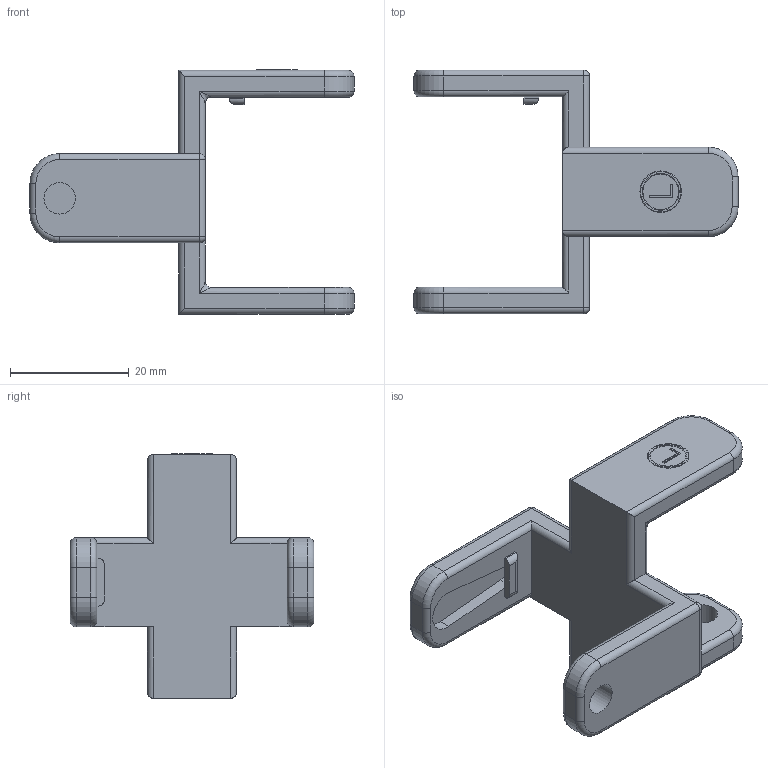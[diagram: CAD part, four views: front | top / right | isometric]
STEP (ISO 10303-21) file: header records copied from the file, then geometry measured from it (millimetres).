
FILE_DESCRIPTION(/* description */ ('STEP AP242 Edition 2','CAx-IF Rec.Pracs.---Representation and Presentation of Product Manufacturing Information (PMI)---4.0---2014-10-13','CAx-IF Rec.Pracs.---3D Tessellated Geometry---0.4---2014-09-14','2;1','CAx-IF Rec.Pracs.---User Defined Attributes---1.5---2016-08-15'),/* implementation_level */ '2;1');
FILE_NAME(/* name */ 'HIRO posing assembly - Left Shoulder (1)',/* time_stamp */ '2026-11-04T05:15:20Z',/* author */ (''),/* organization */ (''),/* preprocessor_version */ 'ST-DEVELOPER v20',/* originating_system */ 'ONSHAPE BY PTC INC, 1.223',/* authorisation */ ' ');
FILE_SCHEMA (('AP242_MANAGED_MODEL_BASED_3D_ENGINEERING_MIM_LF { 1 0 10303 442 3 1 4 }'));
Length unit declared in the file: metre
Products named in the file (1): Left Shoulder
Bounding box: 54.5 x 41 x 41.1 mm (x, y, z)
Volume: 10351.3 mm3; surface area: 6501.2 mm2
Topology: 1 solids, 1 shells, 137 faces, 331 edges, 189 vertices
Faces by surface type: cylinder 68, plane 43, torus 18, sphere 4, bspline 4
Full cylindrical faces by diameter (mm): 5.3 x2
Entity records: 3956 total; most frequent: DIRECTION 724, CARTESIAN_POINT 724, ORIENTED_EDGE 636, EDGE_CURVE 318, AXIS2_PLACEMENT_3D 272, VERTEX_POINT 188, LINE 180, VECTOR 180
